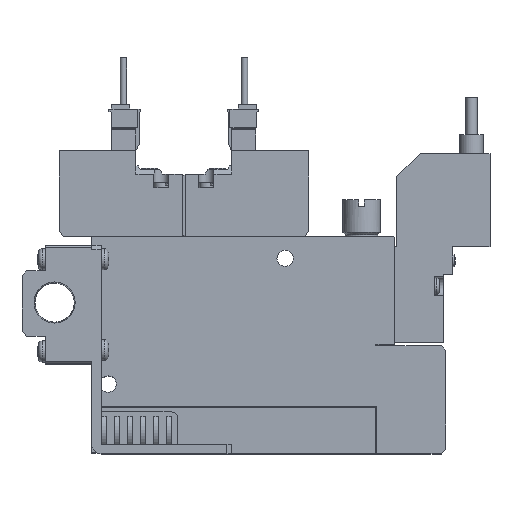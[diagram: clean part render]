
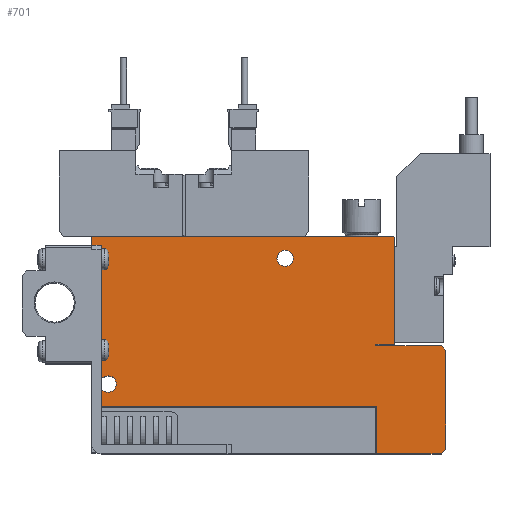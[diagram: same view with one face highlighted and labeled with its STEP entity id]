
A CAD part, top view. The second image highlights one B-rep face of the part: STEP entity #701.
In plain terms, the highlighted planar face has unit normal (0, 0, 1).
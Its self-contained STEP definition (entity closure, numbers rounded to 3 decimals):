
#701=ADVANCED_FACE('',(#1696,#1697,#1698),#1699,.F.);
#1696=FACE_OUTER_BOUND('',#3036,.T.);
#1697=FACE_BOUND('',#3037,.T.);
#1698=FACE_BOUND('',#3038,.T.);
#1699=PLANE('',#3039);
#3036=EDGE_LOOP('',(#6414,#6415,#6416,#6417,#6418,#6419,#6420,#6421,#6422,#6423,#6424,#6425,#6426,#6427));
#3037=EDGE_LOOP('',(#6428));
#3038=EDGE_LOOP('',(#6429));
#3039=AXIS2_PLACEMENT_3D('',#6430,#6431,#6432);
#6414=ORIENTED_EDGE('',*,*,#9462,.T.);
#6415=ORIENTED_EDGE('',*,*,#9463,.F.);
#6416=ORIENTED_EDGE('',*,*,#9464,.F.);
#6417=ORIENTED_EDGE('',*,*,#9465,.T.);
#6418=ORIENTED_EDGE('',*,*,#9466,.T.);
#6419=ORIENTED_EDGE('',*,*,#9467,.T.);
#6420=ORIENTED_EDGE('',*,*,#9468,.T.);
#6421=ORIENTED_EDGE('',*,*,#9414,.T.);
#6422=ORIENTED_EDGE('',*,*,#9469,.T.);
#6423=ORIENTED_EDGE('',*,*,#9470,.T.);
#6424=ORIENTED_EDGE('',*,*,#9420,.T.);
#6425=ORIENTED_EDGE('',*,*,#9471,.T.);
#6426=ORIENTED_EDGE('',*,*,#9472,.T.);
#6427=ORIENTED_EDGE('',*,*,#9473,.T.);
#6428=ORIENTED_EDGE('',*,*,#9474,.F.);
#6429=ORIENTED_EDGE('',*,*,#9459,.F.);
#6430=CARTESIAN_POINT('',(0.0,0.0,5.0));
#6431=DIRECTION('',(0.0,0.0,-1.0));
#6432=DIRECTION('',(0.0,-1.0,0.0));
#9414=EDGE_CURVE('',#11588,#11586,#11589,.T.);
#9420=EDGE_CURVE('',#11599,#11597,#11600,.T.);
#9459=EDGE_CURVE('',#11666,#11666,#11667,.T.);
#9462=EDGE_CURVE('',#11672,#11673,#11674,.T.);
#9463=EDGE_CURVE('',#11675,#11673,#11676,.T.);
#9464=EDGE_CURVE('',#11677,#11675,#11678,.T.);
#9465=EDGE_CURVE('',#11677,#11679,#11680,.T.);
#9466=EDGE_CURVE('',#11679,#11681,#11682,.T.);
#9467=EDGE_CURVE('',#11681,#11683,#11684,.T.);
#9468=EDGE_CURVE('',#11683,#11588,#11685,.T.);
#9469=EDGE_CURVE('',#11586,#11686,#11687,.T.);
#9470=EDGE_CURVE('',#11686,#11599,#11688,.T.);
#9471=EDGE_CURVE('',#11597,#11689,#11690,.T.);
#9472=EDGE_CURVE('',#11689,#11691,#11692,.T.);
#9473=EDGE_CURVE('',#11691,#11672,#11693,.T.);
#9474=EDGE_CURVE('',#11694,#11694,#11695,.T.);
#11586=VERTEX_POINT('',#15176);
#11588=VERTEX_POINT('',#15179);
#11589=LINE('',#15180,#15181);
#11597=VERTEX_POINT('',#15192);
#11599=VERTEX_POINT('',#15195);
#11600=LINE('',#15196,#15197);
#11666=VERTEX_POINT('',#15311);
#11667=CIRCLE('',#15312,1.75);
#11672=VERTEX_POINT('',#15317);
#11673=VERTEX_POINT('',#15318);
#11674=LINE('',#15319,#15320);
#11675=VERTEX_POINT('',#15321);
#11676=LINE('',#15322,#15323);
#11677=VERTEX_POINT('',#15324);
#11678=LINE('',#15325,#15326);
#11679=VERTEX_POINT('',#15327);
#11680=LINE('',#15328,#15329);
#11681=VERTEX_POINT('',#15330);
#11682=LINE('',#15331,#15332);
#11683=VERTEX_POINT('',#15333);
#11684=LINE('',#15334,#15335);
#11685=LINE('',#15336,#15337);
#11686=VERTEX_POINT('',#15338);
#11687=LINE('',#15339,#15340);
#11688=LINE('',#15341,#15342);
#11689=VERTEX_POINT('',#15343);
#11690=LINE('',#15344,#15345);
#11691=VERTEX_POINT('',#15346);
#11692=LINE('',#15347,#15348);
#11693=LINE('',#15349,#15350);
#11694=VERTEX_POINT('',#15351);
#11695=CIRCLE('',#15352,1.75);
#15176=CARTESIAN_POINT('',(61.0,23.25,5.0));
#15179=CARTESIAN_POINT('',(75.0,23.25,5.0));
#15180=CARTESIAN_POINT('',(75.0,23.25,5.0));
#15181=VECTOR('',#18412,1.0);
#15192=CARTESIAN_POINT('',(65.0,46.4,5.0));
#15195=CARTESIAN_POINT('',(65.0,23.5,5.0));
#15196=CARTESIAN_POINT('',(65.0,23.5,5.0));
#15197=VECTOR('',#18420,1.0);
#15311=CARTESIAN_POINT('',(43.25,42.0,5.0));
#15312=AXIS2_PLACEMENT_3D('',#18471,#18472,#18473);
#15317=CARTESIAN_POINT('',(0.0,46.4,5.0));
#15318=CARTESIAN_POINT('',(0.0,10.1,5.0));
#15319=CARTESIAN_POINT('',(0.0,46.4,5.0));
#15320=VECTOR('',#18480,1.0);
#15321=CARTESIAN_POINT('',(61.1,10.1,5.0));
#15322=CARTESIAN_POINT('',(61.1,10.1,5.0));
#15323=VECTOR('',#18481,1.0);
#15324=CARTESIAN_POINT('',(61.1,0.0,5.0));
#15325=CARTESIAN_POINT('',(61.1,0.0,5.0));
#15326=VECTOR('',#18482,1.0);
#15327=CARTESIAN_POINT('',(75.0,0.0,5.0));
#15328=CARTESIAN_POINT('',(0.0,0.0,5.0));
#15329=VECTOR('',#18483,1.0);
#15330=CARTESIAN_POINT('',(76.0,1.0,5.0));
#15331=CARTESIAN_POINT('',(75.0,0.0,5.0));
#15332=VECTOR('',#18484,1.0);
#15333=CARTESIAN_POINT('',(76.0,22.25,5.0));
#15334=CARTESIAN_POINT('',(76.0,1.0,5.0));
#15335=VECTOR('',#18485,1.0);
#15336=CARTESIAN_POINT('',(76.0,22.25,5.0));
#15337=VECTOR('',#18486,1.0);
#15338=CARTESIAN_POINT('',(61.0,23.5,5.0));
#15339=CARTESIAN_POINT('',(61.0,23.25,5.0));
#15340=VECTOR('',#18487,1.0);
#15341=CARTESIAN_POINT('',(61.0,23.5,5.0));
#15342=VECTOR('',#18488,1.0);
#15343=CARTESIAN_POINT('',(64.8,46.6,5.0));
#15344=CARTESIAN_POINT('',(65.0,46.4,5.0));
#15345=VECTOR('',#18489,1.0);
#15346=CARTESIAN_POINT('',(0.2,46.6,5.0));
#15347=CARTESIAN_POINT('',(64.8,46.6,5.0));
#15348=VECTOR('',#18490,1.0);
#15349=CARTESIAN_POINT('',(0.2,46.6,5.0));
#15350=VECTOR('',#18491,1.0);
#15351=CARTESIAN_POINT('',(5.25,15.0,5.0));
#15352=AXIS2_PLACEMENT_3D('',#18492,#18493,#18494);
#18412=DIRECTION('',(-1.0,0.0,0.0));
#18420=DIRECTION('',(0.0,1.0,0.0));
#18471=CARTESIAN_POINT('',(41.5,42.0,5.0));
#18472=DIRECTION('',(0.0,0.0,1.0));
#18473=DIRECTION('',(1.0,0.0,0.0));
#18480=DIRECTION('',(0.0,-1.0,0.0));
#18481=DIRECTION('',(-1.0,0.0,0.0));
#18482=DIRECTION('',(0.0,1.0,0.0));
#18483=DIRECTION('',(1.0,0.0,0.0));
#18484=DIRECTION('',(0.707,0.707,0.0));
#18485=DIRECTION('',(0.0,1.0,0.0));
#18486=DIRECTION('',(-0.707,0.707,0.0));
#18487=DIRECTION('',(0.0,1.0,0.0));
#18488=DIRECTION('',(1.0,0.,0.0));
#18489=DIRECTION('',(-0.707,0.707,0.0));
#18490=DIRECTION('',(-1.0,0.0,0.0));
#18491=DIRECTION('',(-0.707,-0.707,0.0));
#18492=CARTESIAN_POINT('',(3.5,15.0,5.0));
#18493=DIRECTION('',(0.0,0.0,1.0));
#18494=DIRECTION('',(1.0,0.0,0.0));
